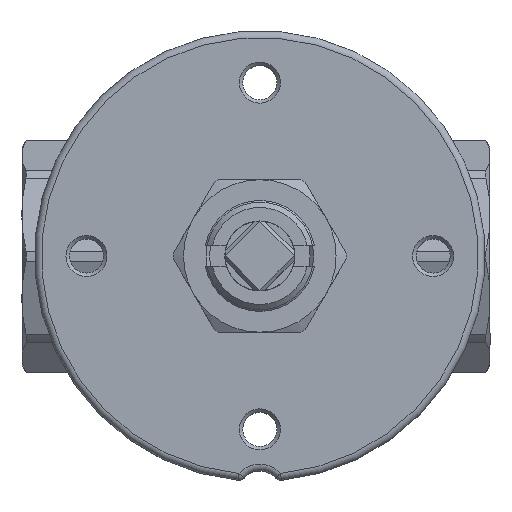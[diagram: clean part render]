
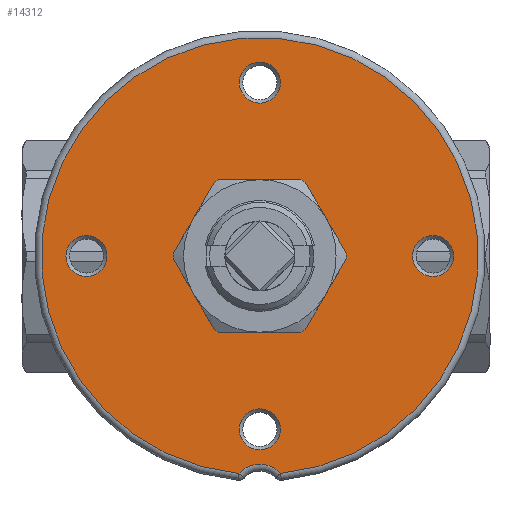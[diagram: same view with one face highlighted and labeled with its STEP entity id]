
A CAD part, top view. The second image highlights one B-rep face of the part: STEP entity #14312.
In plain terms, the highlighted planar face has unit normal (0, 0, 1) as drawn and (-1, 0, 0) by its records, which use the part's own axes.
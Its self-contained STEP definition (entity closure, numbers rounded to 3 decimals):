
#14228=CARTESIAN_POINT('',(-12.5,2.959,-25.0));
#14229=VERTEX_POINT('',#14228);
#14230=CARTESIAN_POINT('',(-12.5,0.,-25.0));
#14231=DIRECTION('',(-1.0,0.0,0.0));
#14232=DIRECTION('',(0.0,-1.0,0.0));
#14233=AXIS2_PLACEMENT_3D('',#14230,#14231,#14232);
#14234=CIRCLE('',#14233,2.959);
#14235=EDGE_CURVE('',#14229,#14229,#14234,.T.);
#14240=CARTESIAN_POINT('',(-12.5,16.25,0.0));
#14241=DIRECTION('',(-1.0,0.0,0.0));
#14242=DIRECTION('',(0.0,0.0,1.0));
#14243=AXIS2_PLACEMENT_3D('',#14240,#14241,#14242);
#14244=PLANE('',#14243);
#14245=CARTESIAN_POINT('',(-12.5,3.002,31.357));
#14246=VERTEX_POINT('',#14245);
#14247=CARTESIAN_POINT('',(-12.5,-3.002,31.357));
#14248=VERTEX_POINT('',#14247);
#14249=CARTESIAN_POINT('',(-12.5,0.,34.0));
#14250=DIRECTION('',(-1.0,0.0,0.0));
#14251=DIRECTION('',(0.0,0.0,-1.0));
#14252=AXIS2_PLACEMENT_3D('',#14249,#14250,#14251);
#14253=CIRCLE('',#14252,4.0);
#14254=EDGE_CURVE('',#14246,#14248,#14253,.T.);
#14255=ORIENTED_EDGE('',*,*,#14254,.F.);
#14256=CARTESIAN_POINT('',(-12.5,0.,0.0));
#14257=DIRECTION('',(1.0,0.0,0.0));
#14258=DIRECTION('',(0.0,-1.0,0.0));
#14259=AXIS2_PLACEMENT_3D('',#14256,#14257,#14258);
#14260=CIRCLE('',#14259,31.5);
#14261=EDGE_CURVE('',#14248,#14246,#14260,.T.);
#14262=ORIENTED_EDGE('',*,*,#14261,.F.);
#14263=EDGE_LOOP('',(#14255,#14262));
#14264=FACE_OUTER_BOUND('',#14263,.T.);
#14265=CARTESIAN_POINT('',(-12.5,27.958,0.));
#14266=VERTEX_POINT('',#14265);
#14267=CARTESIAN_POINT('',(-12.5,25.0,0.0));
#14268=DIRECTION('',(-1.0,0.0,0.0));
#14269=DIRECTION('',(0.0,-1.0,0.0));
#14270=AXIS2_PLACEMENT_3D('',#14267,#14268,#14269);
#14271=CIRCLE('',#14270,2.958);
#14272=EDGE_CURVE('',#14266,#14266,#14271,.T.);
#14273=ORIENTED_EDGE('',*,*,#14272,.F.);
#14274=EDGE_LOOP('',(#14273));
#14275=FACE_BOUND('',#14274,.T.);
#14276=CARTESIAN_POINT('',(-12.5,2.959,25.0));
#14277=VERTEX_POINT('',#14276);
#14278=CARTESIAN_POINT('',(-12.5,0.,25.0));
#14279=DIRECTION('',(-1.0,0.0,0.0));
#14280=DIRECTION('',(0.0,-1.0,0.0));
#14281=AXIS2_PLACEMENT_3D('',#14278,#14279,#14280);
#14282=CIRCLE('',#14281,2.959);
#14283=EDGE_CURVE('',#14277,#14277,#14282,.T.);
#14284=ORIENTED_EDGE('',*,*,#14283,.F.);
#14285=EDGE_LOOP('',(#14284));
#14286=FACE_BOUND('',#14285,.T.);
#14287=CARTESIAN_POINT('',(-12.5,-8.,0.));
#14288=VERTEX_POINT('',#14287);
#14289=CARTESIAN_POINT('',(-12.5,0.,0.0));
#14290=DIRECTION('',(1.0,0.0,0.0));
#14291=DIRECTION('',(0.0,1.0,0.0));
#14292=AXIS2_PLACEMENT_3D('',#14289,#14290,#14291);
#14293=CIRCLE('',#14292,8.0);
#14294=EDGE_CURVE('',#14288,#14288,#14293,.T.);
#14295=ORIENTED_EDGE('',*,*,#14294,.T.);
#14296=EDGE_LOOP('',(#14295));
#14297=FACE_BOUND('',#14296,.T.);
#14298=CARTESIAN_POINT('',(-12.5,-22.042,0.));
#14299=VERTEX_POINT('',#14298);
#14300=CARTESIAN_POINT('',(-12.5,-25.0,0.0));
#14301=DIRECTION('',(-1.0,0.0,0.0));
#14302=DIRECTION('',(0.0,-1.0,0.0));
#14303=AXIS2_PLACEMENT_3D('',#14300,#14301,#14302);
#14304=CIRCLE('',#14303,2.958);
#14305=EDGE_CURVE('',#14299,#14299,#14304,.T.);
#14306=ORIENTED_EDGE('',*,*,#14305,.F.);
#14307=EDGE_LOOP('',(#14306));
#14308=FACE_BOUND('',#14307,.T.);
#14309=ORIENTED_EDGE('',*,*,#14235,.F.);
#14310=EDGE_LOOP('',(#14309));
#14311=FACE_BOUND('',#14310,.T.);
#14312=ADVANCED_FACE('',(#14264,#14275,#14286,#14297,#14308,#14311),#14244,.T.);
